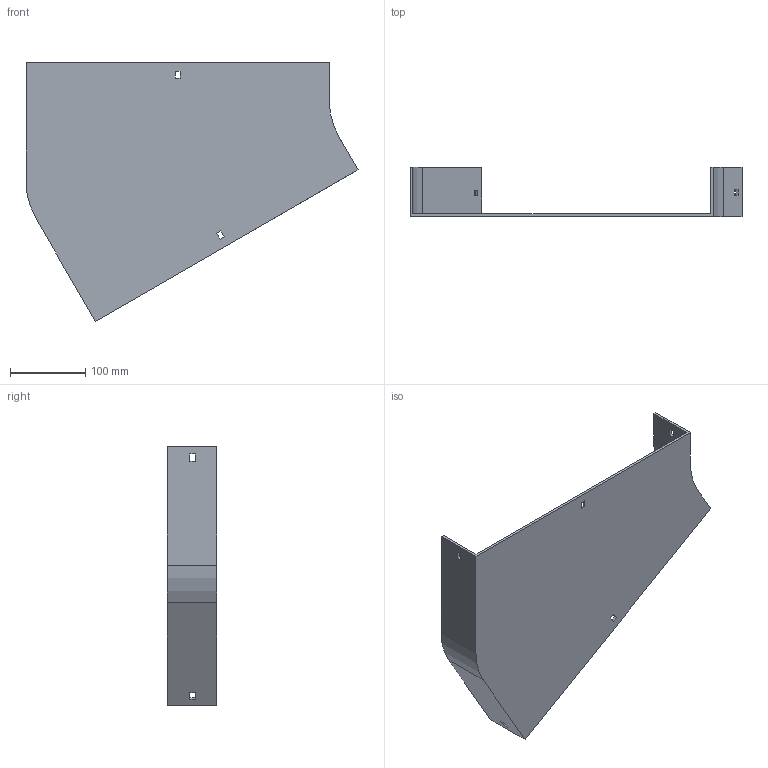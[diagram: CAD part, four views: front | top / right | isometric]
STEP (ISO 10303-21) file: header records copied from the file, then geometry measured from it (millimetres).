
FILE_DESCRIPTION (( 'STEP AP214' ), '1' );
FILE_NAME ('12B1H400.step', '2025-02-21T09:35:09', ( '' ), ( '' ), 'SwSTEP 2.0', 'SolidWorks 2023', '' );
FILE_SCHEMA (( 'AUTOMOTIVE_DESIGN' ));
Length unit declared in the file: millimetre
Products named in the file (1): 12B1H400
Bounding box: 442.4 x 65.5 x 345.3 mm (x, y, z)
Volume: 481959.4 mm3; surface area: 281618.7 mm2
Topology: 1 solids, 1 shells, 42 faces, 120 edges, 80 vertices
Faces by surface type: plane 38, cylinder 4
Entity records: 1399 total; most frequent: CARTESIAN_POINT 243, ORIENTED_EDGE 240, DIRECTION 214, EDGE_CURVE 120, LINE 112, VECTOR 112, VERTEX_POINT 80, EDGE_LOOP 54
